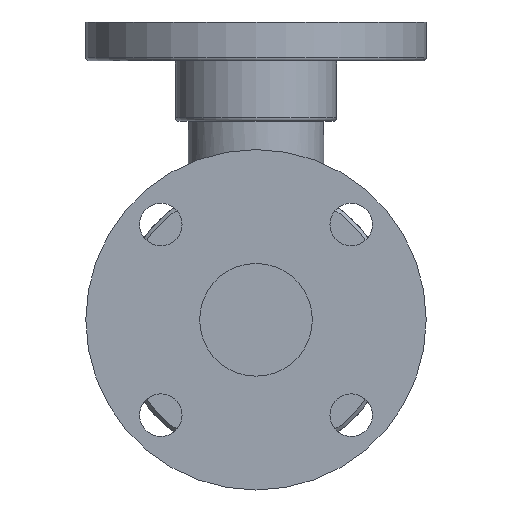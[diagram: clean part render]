
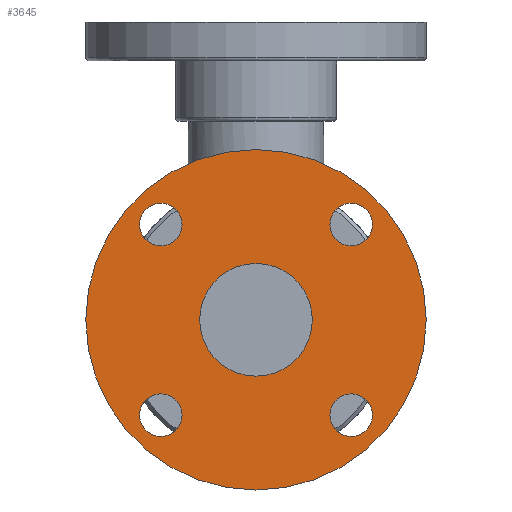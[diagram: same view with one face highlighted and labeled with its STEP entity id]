
A CAD part, front view. The second image highlights one B-rep face of the part: STEP entity #3645.
In plain terms, the highlighted planar face has unit normal (0, -1, 0).
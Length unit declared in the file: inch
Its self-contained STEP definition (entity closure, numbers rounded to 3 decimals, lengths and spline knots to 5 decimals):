
#31 = DIRECTION ( 'NONE',  ( 0., 0., -1. ) ) ;
#36 = CARTESIAN_POINT ( 'NONE',  ( 0., -3.1, 0. ) ) ;
#114 = EDGE_CURVE ( 'NONE', #3366, #6578, #4915, .T. ) ;
#257 = EDGE_LOOP ( 'NONE', ( #7761, #3378 ) ) ;
#298 = CARTESIAN_POINT ( 'NONE',  ( 0., -3.1, 0. ) ) ;
#477 = CARTESIAN_POINT ( 'NONE',  ( 1.67938, -3.1, -1.67938 ) ) ;
#479 = EDGE_CURVE ( 'NONE', #1303, #5076, #6846, .T. ) ;
#634 = ORIENTED_EDGE ( 'NONE', *, *, #2429, .T. ) ;
#709 = DIRECTION ( 'NONE',  ( 0., 1., 0. ) ) ;
#737 = CARTESIAN_POINT ( 'NONE',  ( 0., -3.1, 3. ) ) ;
#760 = DIRECTION ( 'NONE',  ( 0., 0., 1. ) ) ;
#780 = CARTESIAN_POINT ( 'NONE',  ( -1.67938, -3.1, 1.67938 ) ) ;
#857 = EDGE_LOOP ( 'NONE', ( #4167, #6209 ) ) ;
#952 = CIRCLE ( 'NONE', #3286, 0.375 ) ;
#1017 = DIRECTION ( 'NONE',  ( 0., 0., 1. ) ) ;
#1044 = CIRCLE ( 'NONE', #8039, 0.375 ) ;
#1059 = CARTESIAN_POINT ( 'NONE',  ( 1.67938, -3.1, -2.05438 ) ) ;
#1060 = AXIS2_PLACEMENT_3D ( 'NONE', #4983, #709, #5639 ) ;
#1209 = DIRECTION ( 'NONE',  ( 0., 0., -1. ) ) ;
#1303 = VERTEX_POINT ( 'NONE', #2013 ) ;
#1309 = CARTESIAN_POINT ( 'NONE',  ( 0., -3.1, 0.9935 ) ) ;
#1417 = FACE_OUTER_BOUND ( 'NONE', #857, .T. ) ;
#1449 = EDGE_CURVE ( 'NONE', #8261, #8700, #3724, .T. ) ;
#1460 = ORIENTED_EDGE ( 'NONE', *, *, #114, .T. ) ;
#1465 = AXIS2_PLACEMENT_3D ( 'NONE', #7896, #3739, #8612 ) ;
#1499 = DIRECTION ( 'NONE',  ( 0., 1., 0. ) ) ;
#1509 = CIRCLE ( 'NONE', #1060, 0.375 ) ;
#1512 = DIRECTION ( 'NONE',  ( 0., 0., 1. ) ) ;
#1516 = VERTEX_POINT ( 'NONE', #5982 ) ;
#1650 = FACE_BOUND ( 'NONE', #5862, .T. ) ;
#1664 = DIRECTION ( 'NONE',  ( 0., 1., 0. ) ) ;
#1890 = CIRCLE ( 'NONE', #5968, 0.9935 ) ;
#1986 = CIRCLE ( 'NONE', #7366, 0.9935 ) ;
#2013 = CARTESIAN_POINT ( 'NONE',  ( 1.67938, -3.1, 2.05438 ) ) ;
#2132 = AXIS2_PLACEMENT_3D ( 'NONE', #2948, #7836, #3675 ) ;
#2429 = EDGE_CURVE ( 'NONE', #7117, #1516, #9172, .T. ) ;
#2443 = AXIS2_PLACEMENT_3D ( 'NONE', #36, #5023, #760 ) ;
#2675 = CIRCLE ( 'NONE', #1465, 3. ) ;
#2755 = ORIENTED_EDGE ( 'NONE', *, *, #5564, .T. ) ;
#2817 = CARTESIAN_POINT ( 'NONE',  ( -1.67938, -3.1, -1.67938 ) ) ;
#2898 = CARTESIAN_POINT ( 'NONE',  ( -1.67938, -3.1, -1.30438 ) ) ;
#2906 = EDGE_CURVE ( 'NONE', #6578, #3366, #6465, .T. ) ;
#2948 = CARTESIAN_POINT ( 'NONE',  ( 1.67938, -3.1, 1.67938 ) ) ;
#3042 = EDGE_CURVE ( 'NONE', #3973, #3641, #1890, .T. ) ;
#3051 = CARTESIAN_POINT ( 'NONE',  ( 0., -3.1, 0. ) ) ;
#3286 = AXIS2_PLACEMENT_3D ( 'NONE', #5846, #1664, #6541 ) ;
#3316 = CARTESIAN_POINT ( 'NONE',  ( 1.67938, -3.1, -1.30438 ) ) ;
#3366 = VERTEX_POINT ( 'NONE', #1059 ) ;
#3378 = ORIENTED_EDGE ( 'NONE', *, *, #4345, .T. ) ;
#3540 = DIRECTION ( 'NONE',  ( -1., 0., 0. ) ) ;
#3641 = VERTEX_POINT ( 'NONE', #1309 ) ;
#3645 = ADVANCED_FACE ( 'NONE', ( #6796, #1650, #1417, #8705, #4978, #8927 ), #4352, .F. ) ;
#3675 = DIRECTION ( 'NONE',  ( 1., 0., 0. ) ) ;
#3707 = EDGE_CURVE ( 'NONE', #8700, #8261, #2675, .T. ) ;
#3724 = CIRCLE ( 'NONE', #4187, 3. ) ;
#3739 = DIRECTION ( 'NONE',  ( 0., 1., 0. ) ) ;
#3778 = DIRECTION ( 'NONE',  ( 0., 0., 1. ) ) ;
#3973 = VERTEX_POINT ( 'NONE', #7550 ) ;
#4005 = AXIS2_PLACEMENT_3D ( 'NONE', #8518, #4350, #31 ) ;
#4155 = ORIENTED_EDGE ( 'NONE', *, *, #2906, .T. ) ;
#4166 = DIRECTION ( 'NONE',  ( 0., 1., 0. ) ) ;
#4167 = ORIENTED_EDGE ( 'NONE', *, *, #1449, .F. ) ;
#4187 = AXIS2_PLACEMENT_3D ( 'NONE', #298, #5257, #1017 ) ;
#4345 = EDGE_CURVE ( 'NONE', #3641, #3973, #1986, .T. ) ;
#4350 = DIRECTION ( 'NONE',  ( 0., 1., 0. ) ) ;
#4352 = PLANE ( 'NONE',  #2443 ) ;
#4777 = ORIENTED_EDGE ( 'NONE', *, *, #8723, .T. ) ;
#4915 = CIRCLE ( 'NONE', #9186, 0.375 ) ;
#4978 = FACE_BOUND ( 'NONE', #5908, .T. ) ;
#4983 = CARTESIAN_POINT ( 'NONE',  ( 1.67938, -3.1, 1.67938 ) ) ;
#5023 = DIRECTION ( 'NONE',  ( 0., 1., 0. ) ) ;
#5076 = VERTEX_POINT ( 'NONE', #5660 ) ;
#5257 = DIRECTION ( 'NONE',  ( 0., 1., 0. ) ) ;
#5386 = VERTEX_POINT ( 'NONE', #2898 ) ;
#5435 = DIRECTION ( 'NONE',  ( 0., 1., 0. ) ) ;
#5564 = EDGE_CURVE ( 'NONE', #1516, #7117, #952, .T. ) ;
#5639 = DIRECTION ( 'NONE',  ( 1., 0., 0. ) ) ;
#5660 = CARTESIAN_POINT ( 'NONE',  ( 1.67938, -3.1, 1.30438 ) ) ;
#5704 = CARTESIAN_POINT ( 'NONE',  ( -1.67938, -3.1, -1.67938 ) ) ;
#5713 = DIRECTION ( 'NONE',  ( 0., 1., 0. ) ) ;
#5829 = ORIENTED_EDGE ( 'NONE', *, *, #7593, .T. ) ;
#5846 = CARTESIAN_POINT ( 'NONE',  ( -1.67938, -3.1, 1.67938 ) ) ;
#5862 = EDGE_LOOP ( 'NONE', ( #2755, #634 ) ) ;
#5868 = CARTESIAN_POINT ( 'NONE',  ( -1.67938, -3.1, -2.05438 ) ) ;
#5908 = EDGE_LOOP ( 'NONE', ( #7021, #6631 ) ) ;
#5968 = AXIS2_PLACEMENT_3D ( 'NONE', #3051, #7941, #3778 ) ;
#5982 = CARTESIAN_POINT ( 'NONE',  ( -1.67938, -3.1, 1.30438 ) ) ;
#6081 = CARTESIAN_POINT ( 'NONE',  ( 0., -3.1, -3. ) ) ;
#6090 = AXIS2_PLACEMENT_3D ( 'NONE', #780, #5713, #1512 ) ;
#6201 = EDGE_CURVE ( 'NONE', #5076, #1303, #1509, .T. ) ;
#6209 = ORIENTED_EDGE ( 'NONE', *, *, #3707, .F. ) ;
#6387 = DIRECTION ( 'NONE',  ( -1., 0., 0. ) ) ;
#6465 = CIRCLE ( 'NONE', #4005, 0.375 ) ;
#6541 = DIRECTION ( 'NONE',  ( 0., 0., 1. ) ) ;
#6578 = VERTEX_POINT ( 'NONE', #3316 ) ;
#6631 = ORIENTED_EDGE ( 'NONE', *, *, #479, .T. ) ;
#6796 = FACE_BOUND ( 'NONE', #8506, .T. ) ;
#6846 = CIRCLE ( 'NONE', #2132, 0.375 ) ;
#7021 = ORIENTED_EDGE ( 'NONE', *, *, #6201, .T. ) ;
#7104 = AXIS2_PLACEMENT_3D ( 'NONE', #5704, #1499, #6387 ) ;
#7117 = VERTEX_POINT ( 'NONE', #8025 ) ;
#7366 = AXIS2_PLACEMENT_3D ( 'NONE', #8334, #4166, #9050 ) ;
#7550 = CARTESIAN_POINT ( 'NONE',  ( 0., -3.1, -0.9935 ) ) ;
#7593 = EDGE_CURVE ( 'NONE', #9148, #5386, #1044, .T. ) ;
#7705 = DIRECTION ( 'NONE',  ( 0., 1., 0. ) ) ;
#7761 = ORIENTED_EDGE ( 'NONE', *, *, #3042, .T. ) ;
#7836 = DIRECTION ( 'NONE',  ( 0., 1., 0. ) ) ;
#7896 = CARTESIAN_POINT ( 'NONE',  ( 0., -3.1, 0. ) ) ;
#7941 = DIRECTION ( 'NONE',  ( 0., 1., 0. ) ) ;
#8005 = EDGE_LOOP ( 'NONE', ( #5829, #4777 ) ) ;
#8025 = CARTESIAN_POINT ( 'NONE',  ( -1.67938, -3.1, 2.05438 ) ) ;
#8039 = AXIS2_PLACEMENT_3D ( 'NONE', #2817, #7705, #3540 ) ;
#8261 = VERTEX_POINT ( 'NONE', #6081 ) ;
#8334 = CARTESIAN_POINT ( 'NONE',  ( 0., -3.1, 0. ) ) ;
#8433 = CIRCLE ( 'NONE', #7104, 0.375 ) ;
#8506 = EDGE_LOOP ( 'NONE', ( #1460, #4155 ) ) ;
#8518 = CARTESIAN_POINT ( 'NONE',  ( 1.67938, -3.1, -1.67938 ) ) ;
#8612 = DIRECTION ( 'NONE',  ( 0., 0., 1. ) ) ;
#8700 = VERTEX_POINT ( 'NONE', #737 ) ;
#8705 = FACE_BOUND ( 'NONE', #257, .T. ) ;
#8723 = EDGE_CURVE ( 'NONE', #5386, #9148, #8433, .T. ) ;
#8927 = FACE_BOUND ( 'NONE', #8005, .T. ) ;
#9050 = DIRECTION ( 'NONE',  ( 0., 0., 1. ) ) ;
#9148 = VERTEX_POINT ( 'NONE', #5868 ) ;
#9172 = CIRCLE ( 'NONE', #6090, 0.375 ) ;
#9186 = AXIS2_PLACEMENT_3D ( 'NONE', #477, #5435, #1209 ) ;
